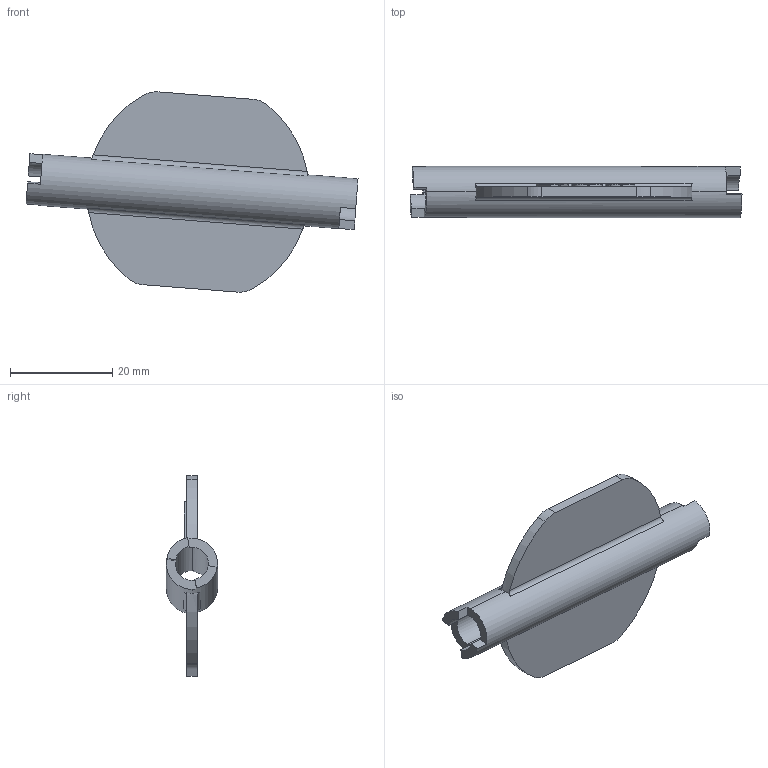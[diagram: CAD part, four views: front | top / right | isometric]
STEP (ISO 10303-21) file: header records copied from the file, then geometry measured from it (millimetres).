
FILE_DESCRIPTION((''),'2;1');
FILE_NAME('0000237119_PRT','2025-11-12T18:33:40',('Wyndorps'),(''),'CREO PARAMETRIC BY PTC INC, 2025010','CREO PARAMETRIC BY PTC INC, 2025010','');
FILE_SCHEMA(('CONFIG_CONTROL_DESIGN'));
Length unit declared in the file: millimetre
Products named in the file (1): 0000237119_PRT
Bounding box: 64.9 x 10 x 39.14 mm (x, y, z)
Volume: 4791.3 mm3; surface area: 5352.9 mm2
Topology: 1 solids, 1 shells, 98 faces, 276 edges, 184 vertices
Faces by surface type: plane 56, extrusion 26, cylinder 16
Entity records: 3444 total; most frequent: CARTESIAN_POINT 956, ORIENTED_EDGE 552, DIRECTION 418, EDGE_CURVE 276, VECTOR 194, VERTEX_POINT 184, LINE 168, AXIS2_PLACEMENT_3D 112
